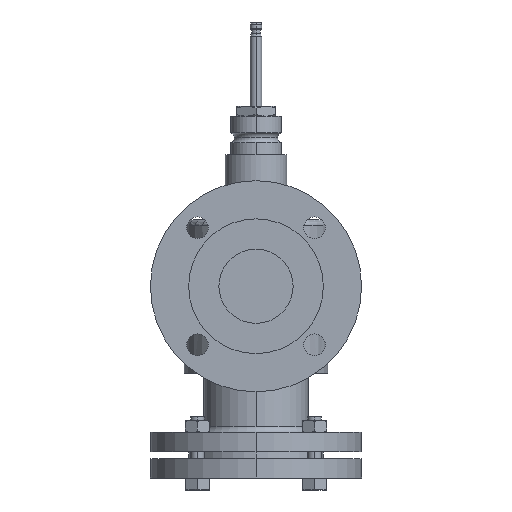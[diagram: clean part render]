
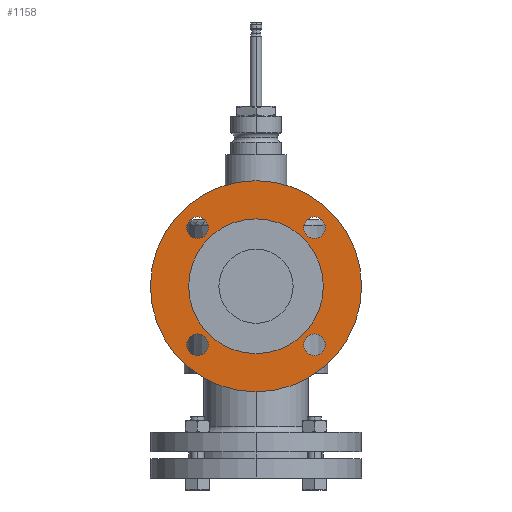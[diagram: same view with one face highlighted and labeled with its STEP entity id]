
A CAD part, front view. The second image highlights one B-rep face of the part: STEP entity #1158.
In plain terms, the highlighted planar face has unit normal (0, -1, 0).
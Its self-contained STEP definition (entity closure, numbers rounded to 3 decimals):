
#1158=ADVANCED_FACE('',(#1469,#1470,#1471,#1472,#1473,#1474),#1346,.T.);
#1346=PLANE('',#4681);
#1469=FACE_BOUND('',#1648,.T.);
#1470=FACE_BOUND('',#1649,.T.);
#1471=FACE_BOUND('',#1650,.T.);
#1472=FACE_BOUND('',#1651,.T.);
#1473=FACE_BOUND('',#1652,.T.);
#1474=FACE_BOUND('',#1653,.T.);
#1648=EDGE_LOOP('',(#2339,#2340));
#1649=EDGE_LOOP('',(#2341,#2342));
#1650=EDGE_LOOP('',(#2343,#2344));
#1651=EDGE_LOOP('',(#2345,#2346));
#1652=EDGE_LOOP('',(#2347,#2348));
#1653=EDGE_LOOP('',(#2349,#2350));
#2339=ORIENTED_EDGE('',*,*,#3800,.T.);
#2340=ORIENTED_EDGE('',*,*,#3829,.T.);
#2341=ORIENTED_EDGE('',*,*,#3820,.T.);
#2342=ORIENTED_EDGE('',*,*,#3821,.T.);
#2343=ORIENTED_EDGE('',*,*,#3817,.T.);
#2344=ORIENTED_EDGE('',*,*,#3822,.T.);
#2345=ORIENTED_EDGE('',*,*,#3814,.T.);
#2346=ORIENTED_EDGE('',*,*,#3823,.T.);
#2347=ORIENTED_EDGE('',*,*,#3811,.T.);
#2348=ORIENTED_EDGE('',*,*,#3824,.T.);
#2349=ORIENTED_EDGE('',*,*,#3802,.F.);
#2350=ORIENTED_EDGE('',*,*,#3828,.F.);
#3296=VERTEX_POINT('',#8901);
#3297=VERTEX_POINT('',#8903);
#3298=VERTEX_POINT('',#8907);
#3300=VERTEX_POINT('',#8910);
#3306=VERTEX_POINT('',#8925);
#3307=VERTEX_POINT('',#8927);
#3308=VERTEX_POINT('',#8931);
#3309=VERTEX_POINT('',#8933);
#3310=VERTEX_POINT('',#8937);
#3311=VERTEX_POINT('',#8939);
#3312=VERTEX_POINT('',#8943);
#3313=VERTEX_POINT('',#8945);
#3800=EDGE_CURVE('',#3296,#3297,#4328,.T.);
#3802=EDGE_CURVE('',#3298,#3300,#4329,.T.);
#3811=EDGE_CURVE('',#3306,#3307,#4333,.T.);
#3814=EDGE_CURVE('',#3308,#3309,#4334,.T.);
#3817=EDGE_CURVE('',#3310,#3311,#4335,.T.);
#3820=EDGE_CURVE('',#3312,#3313,#4336,.T.);
#3821=EDGE_CURVE('',#3313,#3312,#4337,.T.);
#3822=EDGE_CURVE('',#3311,#3310,#4338,.T.);
#3823=EDGE_CURVE('',#3309,#3308,#4339,.T.);
#3824=EDGE_CURVE('',#3307,#3306,#4340,.T.);
#3828=EDGE_CURVE('',#3300,#3298,#4344,.T.);
#3829=EDGE_CURVE('',#3297,#3296,#4345,.T.);
#4328=CIRCLE('',#4648,92.5);
#4329=CIRCLE('',#4650,59.);
#4333=CIRCLE('',#4656,9.5);
#4334=CIRCLE('',#4658,9.5);
#4335=CIRCLE('',#4660,9.5);
#4336=CIRCLE('',#4662,9.5);
#4337=CIRCLE('',#4664,9.5);
#4338=CIRCLE('',#4666,9.5);
#4339=CIRCLE('',#4668,9.5);
#4340=CIRCLE('',#4670,9.5);
#4344=CIRCLE('',#4676,59.);
#4345=CIRCLE('',#4679,92.5);
#4648=AXIS2_PLACEMENT_3D('',#8904,#5406,#5407);
#4650=AXIS2_PLACEMENT_3D('',#8909,#5411,#5412);
#4656=AXIS2_PLACEMENT_3D('',#8928,#5428,#5429);
#4658=AXIS2_PLACEMENT_3D('',#8934,#5434,#5435);
#4660=AXIS2_PLACEMENT_3D('',#8940,#5440,#5441);
#4662=AXIS2_PLACEMENT_3D('',#8946,#5446,#5447);
#4664=AXIS2_PLACEMENT_3D('',#8948,#5450,#5451);
#4666=AXIS2_PLACEMENT_3D('',#8950,#5454,#5455);
#4668=AXIS2_PLACEMENT_3D('',#8952,#5458,#5459);
#4670=AXIS2_PLACEMENT_3D('',#8954,#5462,#5463);
#4676=AXIS2_PLACEMENT_3D('',#8960,#5474,#5475);
#4679=AXIS2_PLACEMENT_3D('',#8963,#5480,#5481);
#4681=AXIS2_PLACEMENT_3D('',#8965,#5484,#5485);
#5406=DIRECTION('',(0.,-1.,0.));
#5407=DIRECTION('',(0.,0.,-1.));
#5411=DIRECTION('',(0.,-1.,0.));
#5412=DIRECTION('',(0.,0.,-1.));
#5428=DIRECTION('',(0.,1.,0.));
#5429=DIRECTION('',(0.,0.,-1.));
#5434=DIRECTION('',(0.,1.,0.));
#5435=DIRECTION('',(0.,0.,-1.));
#5440=DIRECTION('',(0.,1.,0.));
#5441=DIRECTION('',(0.,0.,-1.));
#5446=DIRECTION('',(0.,1.,0.));
#5447=DIRECTION('',(0.,0.,-1.));
#5450=DIRECTION('',(0.,1.,0.));
#5451=DIRECTION('',(0.,0.,-1.));
#5454=DIRECTION('',(0.,1.,0.));
#5455=DIRECTION('',(0.,0.,-1.));
#5458=DIRECTION('',(0.,1.,0.));
#5459=DIRECTION('',(0.,0.,-1.));
#5462=DIRECTION('',(0.,1.,0.));
#5463=DIRECTION('',(0.,0.,-1.));
#5474=DIRECTION('',(0.,-1.,0.));
#5475=DIRECTION('',(0.,0.,-1.));
#5480=DIRECTION('',(0.,-1.,0.));
#5481=DIRECTION('',(0.,0.,-1.));
#5484=DIRECTION('',(0.,-1.,0.));
#5485=DIRECTION('',(0.,0.,1.));
#8901=CARTESIAN_POINT('',(0.,148.,-92.5));
#8903=CARTESIAN_POINT('',(0.,148.,92.5));
#8904=CARTESIAN_POINT('',(0.,148.,0.));
#8907=CARTESIAN_POINT('',(0.,148.,-59.));
#8909=CARTESIAN_POINT('',(0.,148.,0.));
#8910=CARTESIAN_POINT('',(0.,148.,59.));
#8925=CARTESIAN_POINT('',(51.265,148.,41.765));
#8927=CARTESIAN_POINT('',(51.265,148.,60.765));
#8928=CARTESIAN_POINT('',(51.265,148.,51.265));
#8931=CARTESIAN_POINT('',(-51.265,148.,-60.765));
#8933=CARTESIAN_POINT('',(-51.265,148.,-41.765));
#8934=CARTESIAN_POINT('',(-51.265,148.,-51.265));
#8937=CARTESIAN_POINT('',(-51.265,148.,41.765));
#8939=CARTESIAN_POINT('',(-51.265,148.,60.765));
#8940=CARTESIAN_POINT('',(-51.265,148.,51.265));
#8943=CARTESIAN_POINT('',(51.265,148.,-60.765));
#8945=CARTESIAN_POINT('',(51.265,148.,-41.765));
#8946=CARTESIAN_POINT('',(51.265,148.,-51.265));
#8948=CARTESIAN_POINT('',(51.265,148.,-51.265));
#8950=CARTESIAN_POINT('',(-51.265,148.,51.265));
#8952=CARTESIAN_POINT('',(-51.265,148.,-51.265));
#8954=CARTESIAN_POINT('',(51.265,148.,51.265));
#8960=CARTESIAN_POINT('',(0.,148.,0.));
#8963=CARTESIAN_POINT('',(0.,148.,0.));
#8965=CARTESIAN_POINT('',(0.,148.,0.));
